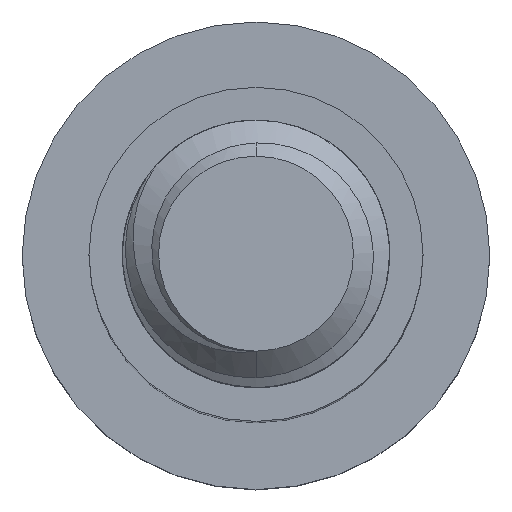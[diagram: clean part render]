
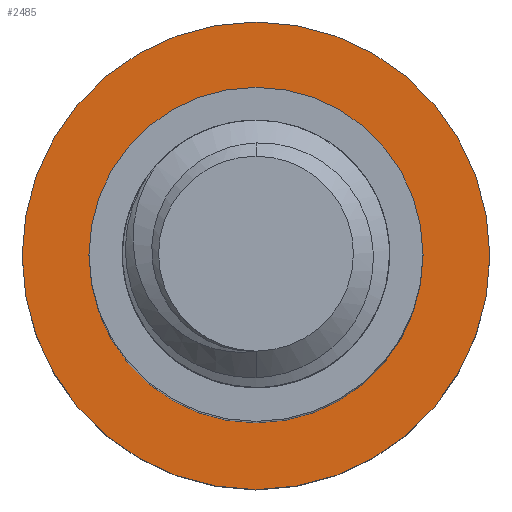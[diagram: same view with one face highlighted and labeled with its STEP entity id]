
A CAD part, top view. The second image highlights one B-rep face of the part: STEP entity #2485.
In plain terms, the highlighted planar face has unit normal (0, 0, 1).
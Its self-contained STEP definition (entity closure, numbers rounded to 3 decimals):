
#113 = EDGE_LOOP ( 'NONE', ( #697, #1180 ) ) ;
#257 = CIRCLE ( 'NONE', #1691, 7. ) ;
#419 = CARTESIAN_POINT ( 'NONE',  ( 0., 0., -25. ) ) ;
#526 = AXIS2_PLACEMENT_3D ( 'NONE', #1876, #3731, #3184 ) ;
#602 = CIRCLE ( 'NONE', #526, 5. ) ;
#697 = ORIENTED_EDGE ( 'NONE', *, *, #2031, .T. ) ;
#698 = DIRECTION ( 'NONE',  ( 0., 0., -1. ) ) ;
#707 = DIRECTION ( 'NONE',  ( 0., 0., -1. ) ) ;
#735 = CARTESIAN_POINT ( 'NONE',  ( 0., 0., -25. ) ) ;
#1180 = ORIENTED_EDGE ( 'NONE', *, *, #3154, .T. ) ;
#1199 = DIRECTION ( 'NONE',  ( 0., 0., -1. ) ) ;
#1251 = CARTESIAN_POINT ( 'NONE',  ( 5., 0., -25. ) ) ;
#1264 = VERTEX_POINT ( 'NONE', #1251 ) ;
#1575 = VERTEX_POINT ( 'NONE', #2187 ) ;
#1627 = EDGE_LOOP ( 'NONE', ( #3452, #4201 ) ) ;
#1691 = AXIS2_PLACEMENT_3D ( 'NONE', #3494, #1199, #2206 ) ;
#1754 = AXIS2_PLACEMENT_3D ( 'NONE', #419, #3669, #4050 ) ;
#1876 = CARTESIAN_POINT ( 'NONE',  ( 0., 0., -25. ) ) ;
#2013 = VERTEX_POINT ( 'NONE', #3404 ) ;
#2031 = EDGE_CURVE ( 'NONE', #2474, #1264, #602, .T. ) ;
#2187 = CARTESIAN_POINT ( 'NONE',  ( -7., 0., -25. ) ) ;
#2206 = DIRECTION ( 'NONE',  ( -1., 0., 0. ) ) ;
#2311 = FACE_BOUND ( 'NONE', #113, .T. ) ;
#2376 = CARTESIAN_POINT ( 'NONE',  ( 0., 0., -25. ) ) ;
#2474 = VERTEX_POINT ( 'NONE', #3984 ) ;
#2485 = ADVANCED_FACE ( 'NONE', ( #2311, #3943 ), #2707, .F. ) ;
#2524 = AXIS2_PLACEMENT_3D ( 'NONE', #2376, #707, #3619 ) ;
#2707 = PLANE ( 'NONE',  #2524 ) ;
#2739 = DIRECTION ( 'NONE',  ( -1., 0., 0. ) ) ;
#2795 = CIRCLE ( 'NONE', #3614, 5. ) ;
#3030 = EDGE_CURVE ( 'NONE', #2013, #1575, #257, .T. ) ;
#3129 = EDGE_CURVE ( 'NONE', #1575, #2013, #4019, .T. ) ;
#3154 = EDGE_CURVE ( 'NONE', #1264, #2474, #2795, .T. ) ;
#3184 = DIRECTION ( 'NONE',  ( -1., 0., 0. ) ) ;
#3404 = CARTESIAN_POINT ( 'NONE',  ( 7., 0., -25. ) ) ;
#3452 = ORIENTED_EDGE ( 'NONE', *, *, #3030, .F. ) ;
#3494 = CARTESIAN_POINT ( 'NONE',  ( 0., 0., -25. ) ) ;
#3614 = AXIS2_PLACEMENT_3D ( 'NONE', #735, #698, #2739 ) ;
#3619 = DIRECTION ( 'NONE',  ( -1., 0., 0. ) ) ;
#3669 = DIRECTION ( 'NONE',  ( 0., 0., -1. ) ) ;
#3731 = DIRECTION ( 'NONE',  ( 0., 0., -1. ) ) ;
#3943 = FACE_OUTER_BOUND ( 'NONE', #1627, .T. ) ;
#3984 = CARTESIAN_POINT ( 'NONE',  ( -5., 0., -25. ) ) ;
#4019 = CIRCLE ( 'NONE', #1754, 7. ) ;
#4050 = DIRECTION ( 'NONE',  ( -1., 0., 0. ) ) ;
#4201 = ORIENTED_EDGE ( 'NONE', *, *, #3129, .F. ) ;
